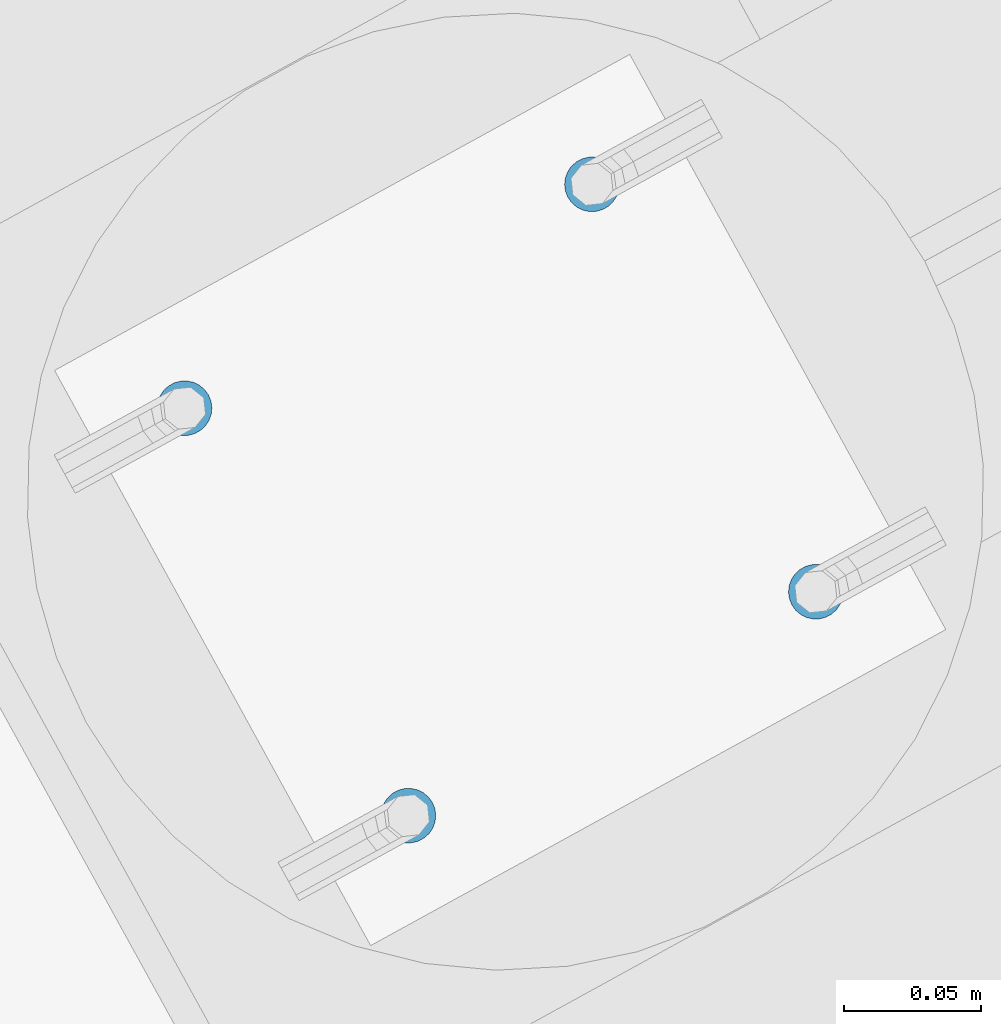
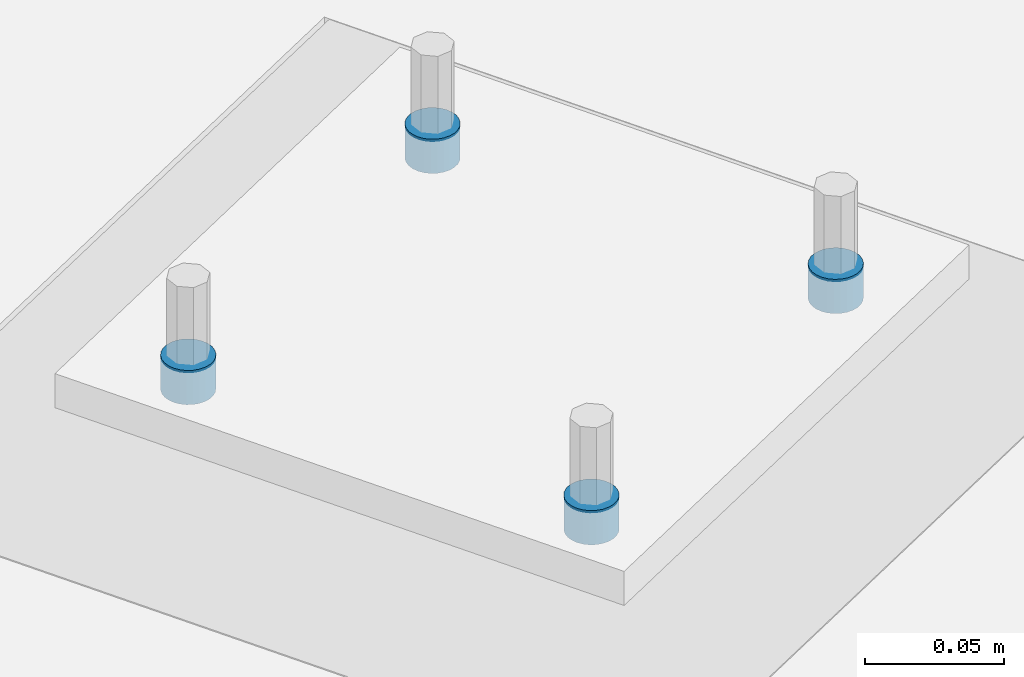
# One storey, part 12 of 22: 1 mechanical fastener.
"""IFC2X3 building model written with IfcOpenShell, lengths in millimetres."""

from ifc_helpers import new_model, si_unit, frame, origin_with_axes, origin_2d_with_axis, place, context, subcontext, project, spatial, circle, extrude, source, transform, mapped, material, type_object, element, save


model = new_model("IFC2X3")

# Units and contexts
model_context = context("Model", 3, precision=1e-05, world=origin_with_axes())
body_context = subcontext(model_context, "Body", "Model", "MODEL_VIEW")
ifc_project = project(units=[si_unit("LENGTHUNIT", "METRE", prefix="MILLI"), si_unit("AREAUNIT", "SQUARE_METRE"), si_unit("VOLUMEUNIT", "CUBIC_METRE"), si_unit("MASSUNIT", "GRAM", prefix="KILO"), si_unit("TIMEUNIT", "SECOND"), si_unit("PLANEANGLEUNIT", "RADIAN"), si_unit("SOLIDANGLEUNIT", "STERADIAN"), si_unit("THERMODYNAMICTEMPERATUREUNIT", "DEGREE_CELSIUS"), si_unit("LUMINOUSINTENSITYUNIT", "LUMEN")], contexts=[model_context])

# Site, building, storey
site_placement = place(None, origin_with_axes())
site = spatial("IfcSite", under=ifc_project, at=site_placement, Name="Undefined", CompositionType="ELEMENT")
building_placement = place(site_placement, origin_with_axes())
building = spatial("IfcBuilding", under=site, at=building_placement, Name="Undefined", CompositionType="ELEMENT")
storey_placement = place(building_placement, origin_with_axes())
storey = spatial("IfcBuildingStorey", under=building, at=storey_placement, Name="Undefined", CompositionType="ELEMENT", Elevation=0.0)

# Mechanical fastener
ifc_material = material(Name="Undefined")
mechanical_fastener_type = type_object("IfcMechanicalFastenerType", Name="Bolt assembly")
shared_shape = source(origin_with_axes(), body_context, "Body", "SweptSolid", [
    extrude(circle(Radius=10.0, at=origin_2d_with_axis()), frame((0.0, -15.0, 0.0), z_axis=(0.0, 1.0, 0.0), x_axis=(1.0, 0.0, 0.0)), (0.0, 0.0, 1.0), 15.1),
])
mechanical_fastener_placement = place(storey_placement, frame((60527.3882871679, 25048.5929892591, -35.0), z_axis=(0.481556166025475, -0.876415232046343, 0.0), x_axis=(0.876415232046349, 0.481556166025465, 0.0)))
element("IfcMechanicalFastener", 1, at=mechanical_fastener_placement, inside=storey, type_object=mechanical_fastener_type, material=ifc_material, Name="Bolt assembly", NominalDiameter=16.0, NominalLength=15.0, context=body_context, shape_type="MappedRepresentation", body=[
    mapped(shared_shape, transform((-0.849998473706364, 0.0, -85.0000000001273))),
    mapped(shared_shape, transform((-0.849998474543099, 0.0, 85.0000000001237))),
    mapped(shared_shape, transform((169.150001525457, 0.0, -84.9999999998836))),
    mapped(shared_shape, transform((169.15000152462, 0.0, 85.0000000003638))),
])

save(model, "model.ifc")
